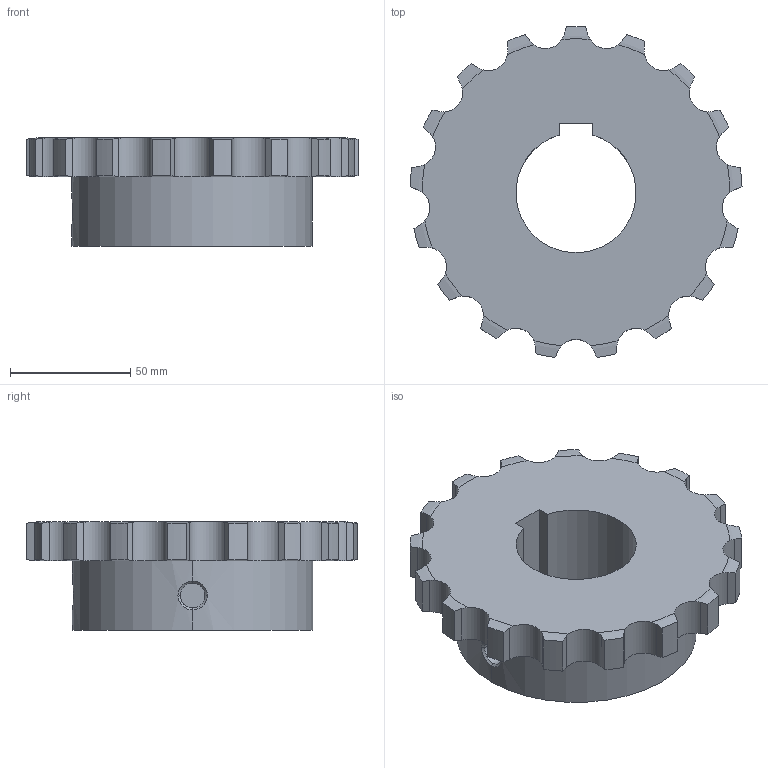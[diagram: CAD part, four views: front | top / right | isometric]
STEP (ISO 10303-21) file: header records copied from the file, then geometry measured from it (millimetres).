
FILE_DESCRIPTION((''),'2;1');
FILE_NAME('510-501-5017_PRT','2021-02-13T',('Brieden'),('Brieden'),'PRO/ENGINEER BY PARAMETRIC TECHNOLOGY CORPORATION, 2010160','PRO/ENGINEER BY PARAMETRIC TECHNOLOGY CORPORATION, 2010160','');
FILE_SCHEMA(('AUTOMOTIVE_DESIGN { 1 0 10303 214 1 1 1 1 }'));
Length unit declared in the file: millimetre
Products named in the file (1): 510-501-5017_PRT
Bounding box: 138.14 x 137.65 x 45 mm (x, y, z)
Volume: 348247.7 mm3; surface area: 48726.8 mm2
Topology: 1 solids, 1 shells, 123 faces, 351 edges, 232 vertices
Faces by surface type: cylinder 75, torus 34, plane 8, bspline 6
Entity records: 6168 total; most frequent: CARTESIAN_POINT 2035, ORIENTED_EDGE 702, DIRECTION 549, PRESENTATION_STYLE_ASSIGNMENT 352, STYLED_ITEM 352, CURVE_STYLE 351, EDGE_CURVE 351, VERTEX_POINT 232
